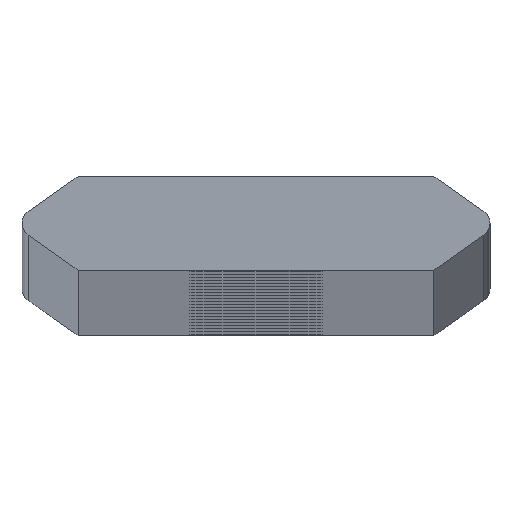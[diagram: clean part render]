
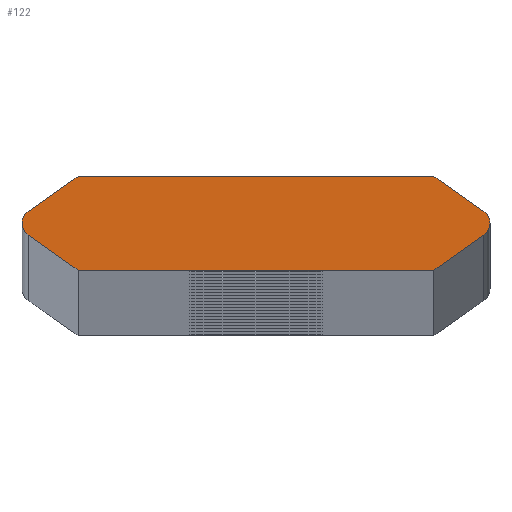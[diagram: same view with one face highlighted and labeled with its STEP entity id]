
A CAD part, top view. The second image highlights one B-rep face of the part: STEP entity #122.
In plain terms, the highlighted planar face has unit normal (0, 0, 1).
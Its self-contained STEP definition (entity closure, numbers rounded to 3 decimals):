
#122=ADVANCED_FACE('',(#226),#227,.T.);
#226=FACE_OUTER_BOUND('',#382,.T.);
#227=PLANE('',#383);
#382=EDGE_LOOP('',(#773,#774,#775,#776,#777,#778,#779,#780,#781,#782));
#383=AXIS2_PLACEMENT_3D('',#783,#784,#785);
#773=ORIENTED_EDGE('',*,*,#941,.T.);
#774=ORIENTED_EDGE('',*,*,#1078,.T.);
#775=ORIENTED_EDGE('',*,*,#1079,.F.);
#776=ORIENTED_EDGE('',*,*,#1080,.F.);
#777=ORIENTED_EDGE('',*,*,#1081,.F.);
#778=ORIENTED_EDGE('',*,*,#937,.T.);
#779=ORIENTED_EDGE('',*,*,#1082,.T.);
#780=ORIENTED_EDGE('',*,*,#1083,.F.);
#781=ORIENTED_EDGE('',*,*,#1084,.F.);
#782=ORIENTED_EDGE('',*,*,#1085,.F.);
#783=CARTESIAN_POINT('',(0.,0.,1976.0));
#784=DIRECTION('',(0.0,0.0,1.0));
#785=DIRECTION('',(1.0,0.0,0.0));
#937=EDGE_CURVE('',#1101,#1098,#1102,.T.);
#941=EDGE_CURVE('',#1109,#1106,#1110,.T.);
#1078=EDGE_CURVE('',#1106,#1336,#1338,.T.);
#1079=EDGE_CURVE('',#1339,#1336,#1340,.T.);
#1080=EDGE_CURVE('',#1341,#1339,#1342,.T.);
#1081=EDGE_CURVE('',#1101,#1341,#1343,.T.);
#1082=EDGE_CURVE('',#1098,#1344,#1345,.T.);
#1083=EDGE_CURVE('',#1346,#1344,#1347,.T.);
#1084=EDGE_CURVE('',#1348,#1346,#1349,.T.);
#1085=EDGE_CURVE('',#1109,#1348,#1350,.T.);
#1098=VERTEX_POINT('',#1368);
#1101=VERTEX_POINT('',#1372);
#1102=CIRCLE('',#1373,0.76);
#1106=VERTEX_POINT('',#1378);
#1109=VERTEX_POINT('',#1382);
#1110=CIRCLE('',#1383,0.76);
#1336=VERTEX_POINT('',#1654);
#1338=CIRCLE('',#1657,0.76);
#1339=VERTEX_POINT('',#1658);
#1340=LINE('',#1659,#1660);
#1341=VERTEX_POINT('',#1661);
#1342=LINE('',#1662,#1663);
#1343=LINE('',#1664,#1665);
#1344=VERTEX_POINT('',#1666);
#1345=CIRCLE('',#1667,0.76);
#1346=VERTEX_POINT('',#1668);
#1347=LINE('',#1669,#1670);
#1348=VERTEX_POINT('',#1671);
#1349=LINE('',#1672,#1673);
#1350=LINE('',#1674,#1675);
#1368=CARTESIAN_POINT('',(12.34,0.,1976.0));
#1372=CARTESIAN_POINT('',(12.019,-0.62,1976.0));
#1373=AXIS2_PLACEMENT_3D('',#1705,#1706,#1707);
#1378=CARTESIAN_POINT('',(-12.34,0.,1976.0));
#1382=CARTESIAN_POINT('',(-12.019,0.62,1976.0));
#1383=AXIS2_PLACEMENT_3D('',#1713,#1714,#1715);
#1654=CARTESIAN_POINT('',(-12.019,-0.62,1976.0));
#1657=AXIS2_PLACEMENT_3D('',#2032,#2033,#2034);
#1658=CARTESIAN_POINT('',(-9.385,-2.465,1976.0));
#1659=CARTESIAN_POINT('',(-12.905,0.,1976.0));
#1660=VECTOR('',#2035,1.0);
#1661=CARTESIAN_POINT('',(9.385,-2.465,1976.0));
#1662=CARTESIAN_POINT('',(9.385,-2.465,1976.0));
#1663=VECTOR('',#2036,1.0);
#1664=CARTESIAN_POINT('',(12.905,0.0,1976.0));
#1665=VECTOR('',#2037,1.0);
#1666=CARTESIAN_POINT('',(12.019,0.62,1976.0));
#1667=AXIS2_PLACEMENT_3D('',#2038,#2039,#2040);
#1668=CARTESIAN_POINT('',(9.385,2.465,1976.0));
#1669=CARTESIAN_POINT('',(12.905,0.0,1976.0));
#1670=VECTOR('',#2041,1.0);
#1671=CARTESIAN_POINT('',(-9.385,2.465,1976.0));
#1672=CARTESIAN_POINT('',(-9.385,2.465,1976.0));
#1673=VECTOR('',#2042,1.0);
#1674=CARTESIAN_POINT('',(-12.905,0.,1976.0));
#1675=VECTOR('',#2043,1.0);
#1705=CARTESIAN_POINT('',(11.58,0.0,1976.0));
#1706=DIRECTION('',(0.0,0.0,1.0));
#1707=DIRECTION('',(1.0,0.0,0.0));
#1713=CARTESIAN_POINT('',(-11.58,0.,1976.0));
#1714=DIRECTION('',(0.0,0.0,1.0));
#1715=DIRECTION('',(-1.0,0.,0.0));
#2032=CARTESIAN_POINT('',(-11.58,0.,1976.0));
#2033=DIRECTION('',(0.0,0.0,1.0));
#2034=DIRECTION('',(-1.0,0.,0.0));
#2035=DIRECTION('',(-0.819,0.574,0.0));
#2036=DIRECTION('',(-1.0,0.0,0.0));
#2037=DIRECTION('',(-0.819,-0.574,0.0));
#2038=CARTESIAN_POINT('',(11.58,0.0,1976.0));
#2039=DIRECTION('',(0.0,0.0,1.0));
#2040=DIRECTION('',(1.0,0.0,0.0));
#2041=DIRECTION('',(0.819,-0.574,0.0));
#2042=DIRECTION('',(1.0,0.,0.0));
#2043=DIRECTION('',(0.819,0.574,0.0));
